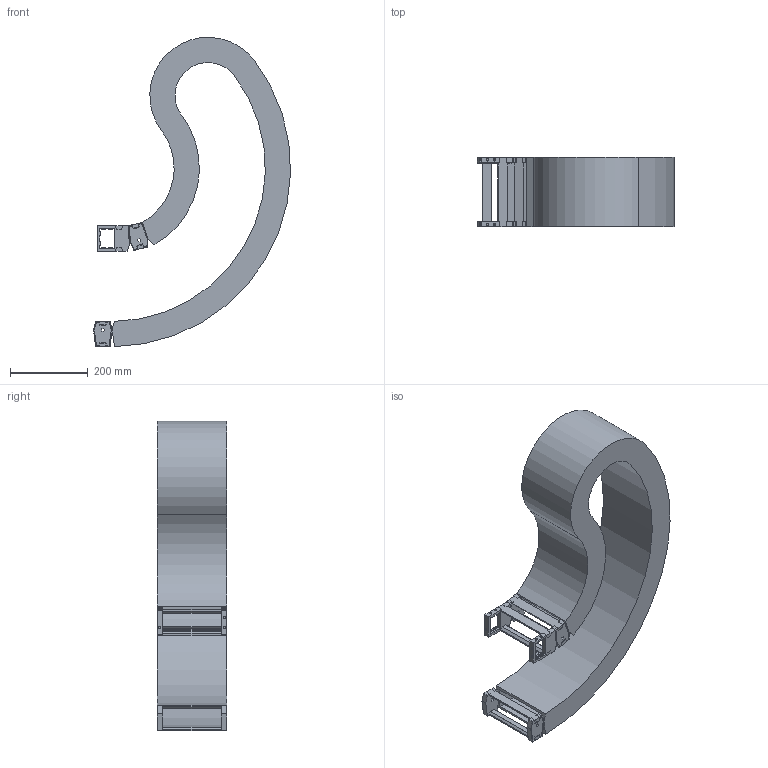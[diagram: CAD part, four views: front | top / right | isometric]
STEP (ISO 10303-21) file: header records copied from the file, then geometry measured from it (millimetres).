
FILE_DESCRIPTION( ( 'STEP AP214' ), '1' );
FILE_NAME( 'p:/temp/worker_41/temp/exporttempdir_1908_1372_4FBt6/format_1/RV048CRA17818616090300450-001502474.68352.stp', '2021-07-27T04:45:34', ( 'License CC BY-ND 4.0' ), ( 'CADENAS' ), ' ', 'PARTsolutions', ' ' );
FILE_SCHEMA( ( 'AUTOMOTIVE_DESIGN { 1 0 10303 214 1 1 1 1 }' ) );
Length unit declared in the file: millimetre
Products named in the file (4): RV048CRA17818616090300450-001502474.68352; _RV048CRA17818616090300450-001521501.283-Chain; _RV048CR-SU-48-150; _RV048CR_FB-178
Assembly tree (4 placements, depth 2):
  RV048CRA17818616090300450-001502474.68352
    _RV048CRA17818616090300450-001521501.283-Chain
    _RV048CR-SU-48-150  x2
    _RV048CR_FB-178
Bounding box: 507.79 x 178 x 796.98 mm (x, y, z)
Volume: 6177289.1 mm3; surface area: 1596719.6 mm2
Topology: 4 solids, 4 shells, 507 faces, 1482 edges, 980 vertices
Faces by surface type: plane 389, cylinder 118
Full cylindrical faces by diameter (mm): 6 x12
Entity records: 14298 total; most frequent: CARTESIAN_POINT 2024, ORIENTED_EDGE 2004, DIRECTION 1890, EDGE_CURVE 1002, LINE 822, VECTOR 822, VERTEX_POINT 668, AXIS2_PLACEMENT_3D 534
